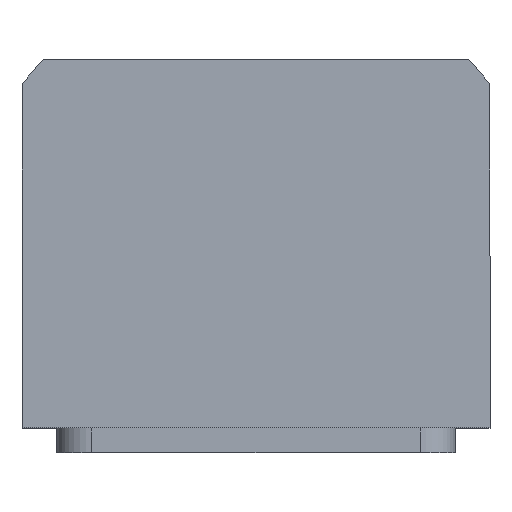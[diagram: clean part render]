
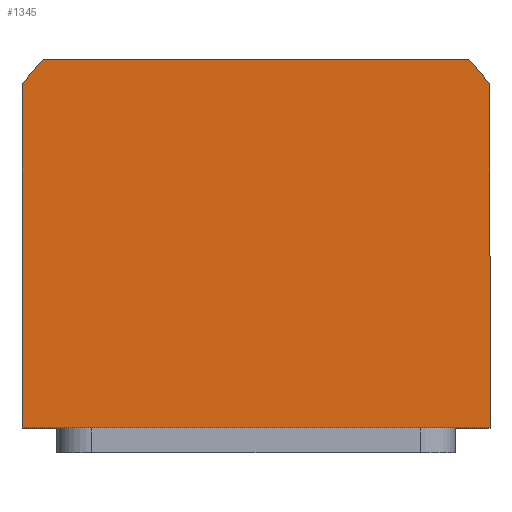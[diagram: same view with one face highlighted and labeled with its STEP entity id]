
A CAD part, top view. The second image highlights one B-rep face of the part: STEP entity #1345.
In plain terms, the highlighted planar face has unit normal (0, 0, 1).
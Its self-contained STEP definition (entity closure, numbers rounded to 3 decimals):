
#181 = EDGE_CURVE ( 'NONE', #9239, #11034, #3115, .T. ) ;
#319 = LINE ( 'NONE', #5566, #7508 ) ;
#538 = VECTOR ( 'NONE', #8721, 1000. ) ;
#1212 = AXIS2_PLACEMENT_3D ( 'NONE', #2417, #8525, #5841 ) ;
#1345 = ADVANCED_FACE ( 'NONE', ( #4399 ), #9976, .T. ) ;
#1657 = CARTESIAN_POINT ( 'NONE',  ( -47., -34., 42.5 ) ) ;
#1778 = ORIENTED_EDGE ( 'NONE', *, *, #10250, .T. ) ;
#1956 = CIRCLE ( 'NONE', #1212, 58.5 ) ;
#2026 = EDGE_LOOP ( 'NONE', ( #2027, #8599, #5111, #9501, #2490, #1778 ) ) ;
#2027 = ORIENTED_EDGE ( 'NONE', *, *, #181, .T. ) ;
#2139 = CARTESIAN_POINT ( 'NONE',  ( 0., 0., 42.5 ) ) ;
#2417 = CARTESIAN_POINT ( 'NONE',  ( 0., 0., 42.5 ) ) ;
#2490 = ORIENTED_EDGE ( 'NONE', *, *, #9153, .T. ) ;
#2571 = CARTESIAN_POINT ( 'NONE',  ( 47., -34., 42.5 ) ) ;
#2955 = AXIS2_PLACEMENT_3D ( 'NONE', #4845, #6638, #5775 ) ;
#3115 = LINE ( 'NONE', #2571, #538 ) ;
#3288 = VECTOR ( 'NONE', #8487, 1000. ) ;
#3447 = LINE ( 'NONE', #11136, #3288 ) ;
#3958 = DIRECTION ( 'NONE',  ( 1., 0., 0. ) ) ;
#4399 = FACE_OUTER_BOUND ( 'NONE', #2026, .T. ) ;
#4845 = CARTESIAN_POINT ( 'NONE',  ( 0., 0., 42.5 ) ) ;
#5060 = LINE ( 'NONE', #8681, #9176 ) ;
#5111 = ORIENTED_EDGE ( 'NONE', *, *, #9914, .T. ) ;
#5336 = VERTEX_POINT ( 'NONE', #11296 ) ;
#5485 = CIRCLE ( 'NONE', #2955, 58.5 ) ;
#5566 = CARTESIAN_POINT ( 'NONE',  ( 47., 34.832, 42.5 ) ) ;
#5775 = DIRECTION ( 'NONE',  ( 1., 0., 0. ) ) ;
#5841 = DIRECTION ( 'NONE',  ( 1., 0., 0. ) ) ;
#6445 = DIRECTION ( 'NONE',  ( 0., 1., 0. ) ) ;
#6638 = DIRECTION ( 'NONE',  ( 0., 0., 1. ) ) ;
#6906 = DIRECTION ( 'NONE',  ( 0., -1., 0. ) ) ;
#7048 = VERTEX_POINT ( 'NONE', #10591 ) ;
#7330 = CARTESIAN_POINT ( 'NONE',  ( 47., -34., 42.5 ) ) ;
#7508 = VECTOR ( 'NONE', #6445, 1000. ) ;
#7551 = EDGE_CURVE ( 'NONE', #7048, #10040, #3447, .T. ) ;
#7669 = VERTEX_POINT ( 'NONE', #9343 ) ;
#8487 = DIRECTION ( 'NONE',  ( -1., 0., 0. ) ) ;
#8525 = DIRECTION ( 'NONE',  ( 0., 0., 1. ) ) ;
#8599 = ORIENTED_EDGE ( 'NONE', *, *, #10707, .T. ) ;
#8681 = CARTESIAN_POINT ( 'NONE',  ( -47., -34., 42.5 ) ) ;
#8721 = DIRECTION ( 'NONE',  ( 1., 0., 0. ) ) ;
#8818 = CARTESIAN_POINT ( 'NONE',  ( -42.688, 40., 42.5 ) ) ;
#9153 = EDGE_CURVE ( 'NONE', #10040, #7669, #1956, .T. ) ;
#9176 = VECTOR ( 'NONE', #6906, 1000. ) ;
#9227 = AXIS2_PLACEMENT_3D ( 'NONE', #2139, #10078, #3958 ) ;
#9239 = VERTEX_POINT ( 'NONE', #1657 ) ;
#9343 = CARTESIAN_POINT ( 'NONE',  ( -47., 34.832, 42.5 ) ) ;
#9501 = ORIENTED_EDGE ( 'NONE', *, *, #7551, .T. ) ;
#9914 = EDGE_CURVE ( 'NONE', #5336, #7048, #5485, .T. ) ;
#9976 = PLANE ( 'NONE',  #9227 ) ;
#10040 = VERTEX_POINT ( 'NONE', #8818 ) ;
#10078 = DIRECTION ( 'NONE',  ( 0., 0., 1. ) ) ;
#10250 = EDGE_CURVE ( 'NONE', #7669, #9239, #5060, .T. ) ;
#10591 = CARTESIAN_POINT ( 'NONE',  ( 42.688, 40., 42.5 ) ) ;
#10707 = EDGE_CURVE ( 'NONE', #11034, #5336, #319, .T. ) ;
#11034 = VERTEX_POINT ( 'NONE', #7330 ) ;
#11136 = CARTESIAN_POINT ( 'NONE',  ( -42.688, 40., 42.5 ) ) ;
#11296 = CARTESIAN_POINT ( 'NONE',  ( 47., 34.832, 42.5 ) ) ;
